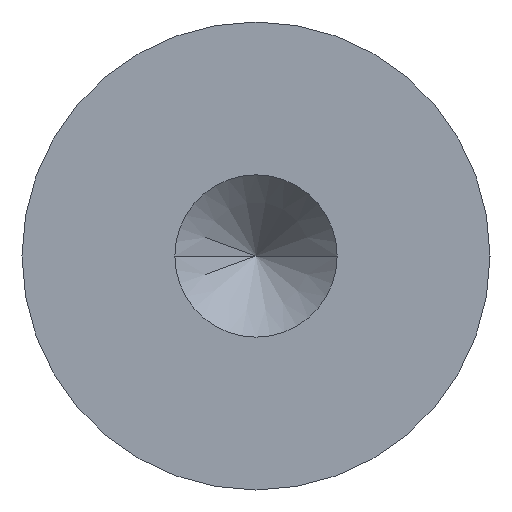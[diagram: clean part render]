
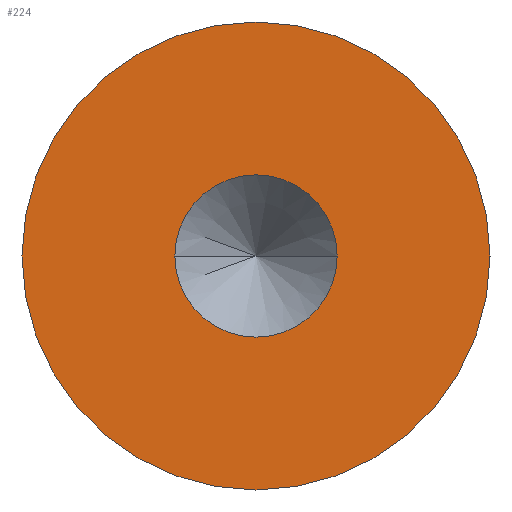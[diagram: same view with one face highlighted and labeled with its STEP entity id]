
A CAD part, left-side view. The second image highlights one B-rep face of the part: STEP entity #224.
In plain terms, the highlighted planar face has unit normal (-1, 0, 0).
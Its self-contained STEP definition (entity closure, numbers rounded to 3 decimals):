
#1 = VERTEX_POINT ( 'NONE', #507 ) ;
#7 = VERTEX_POINT ( 'NONE', #112 ) ;
#15 = VERTEX_POINT ( 'NONE', #497 ) ;
#49 = FACE_BOUND ( 'NONE', #111, .T. ) ;
#111 = EDGE_LOOP ( 'NONE', ( #373, #374 ) ) ;
#112 = CARTESIAN_POINT ( 'NONE',  ( 0., -0.505, 0. ) ) ;
#116 = VERTEX_POINT ( 'NONE', #429 ) ;
#117 = AXIS2_PLACEMENT_3D ( 'NONE', #384, #385, #386 ) ;
#120 = CIRCLE ( 'NONE', #117, 0.505 ) ;
#122 = PLANE ( 'NONE',  #191 ) ;
#124 = CARTESIAN_POINT ( 'NONE',  ( 0., -4.48, 0. ) ) ;
#125 = DIRECTION ( 'NONE',  ( 1., 0., 0. ) ) ;
#126 = DIRECTION ( 'NONE',  ( 0., 1., 0. ) ) ;
#131 = FACE_OUTER_BOUND ( 'NONE', #521, .T. ) ;
#191 = AXIS2_PLACEMENT_3D ( 'NONE', #124, #125, #126 ) ;
#209 = EDGE_CURVE ( 'NONE', #116, #7, #120, .T. ) ;
#214 = EDGE_CURVE ( 'NONE', #1, #15, #439, .T. ) ;
#224 = ADVANCED_FACE ( 'NONE', ( #49, #131 ), #122, .F. ) ;
#265 = CARTESIAN_POINT ( 'NONE',  ( 0., 0., 0. ) ) ;
#266 = DIRECTION ( 'NONE',  ( -1., 0., 0. ) ) ;
#267 = DIRECTION ( 'NONE',  ( 0., -1., 0. ) ) ;
#268 = CARTESIAN_POINT ( 'NONE',  ( 0., 0., 0. ) ) ;
#269 = DIRECTION ( 'NONE',  ( -1., 0., 0. ) ) ;
#270 = DIRECTION ( 'NONE',  ( 0., -1., 0. ) ) ;
#321 = CARTESIAN_POINT ( 'NONE',  ( 0., 0., 0. ) ) ;
#322 = DIRECTION ( 'NONE',  ( -1., 0., 0. ) ) ;
#323 = DIRECTION ( 'NONE',  ( 0., -1., 0. ) ) ;
#342 = AXIS2_PLACEMENT_3D ( 'NONE', #268, #269, #270 ) ;
#344 = CIRCLE ( 'NONE', #342, 0.505 ) ;
#346 = AXIS2_PLACEMENT_3D ( 'NONE', #321, #322, #323 ) ;
#373 = ORIENTED_EDGE ( 'NONE', *, *, #411, .F. ) ;
#374 = ORIENTED_EDGE ( 'NONE', *, *, #214, .F. ) ;
#384 = CARTESIAN_POINT ( 'NONE',  ( 0., 0., 0. ) ) ;
#385 = DIRECTION ( 'NONE',  ( -1., 0., 0. ) ) ;
#386 = DIRECTION ( 'NONE',  ( 0., -1., 0. ) ) ;
#411 = EDGE_CURVE ( 'NONE', #15, #1, #493, .T. ) ;
#412 = EDGE_CURVE ( 'NONE', #7, #116, #344, .T. ) ;
#429 = CARTESIAN_POINT ( 'NONE',  ( 0., 0.505, 0. ) ) ;
#439 = CIRCLE ( 'NONE', #346, 0.175 ) ;
#493 = CIRCLE ( 'NONE', #494, 0.175 ) ;
#494 = AXIS2_PLACEMENT_3D ( 'NONE', #265, #266, #267 ) ;
#497 = CARTESIAN_POINT ( 'NONE',  ( 0., -0.175, 0. ) ) ;
#507 = CARTESIAN_POINT ( 'NONE',  ( 0., 0.175, 0. ) ) ;
#521 = EDGE_LOOP ( 'NONE', ( #539, #538 ) ) ;
#538 = ORIENTED_EDGE ( 'NONE', *, *, #209, .T. ) ;
#539 = ORIENTED_EDGE ( 'NONE', *, *, #412, .T. ) ;
